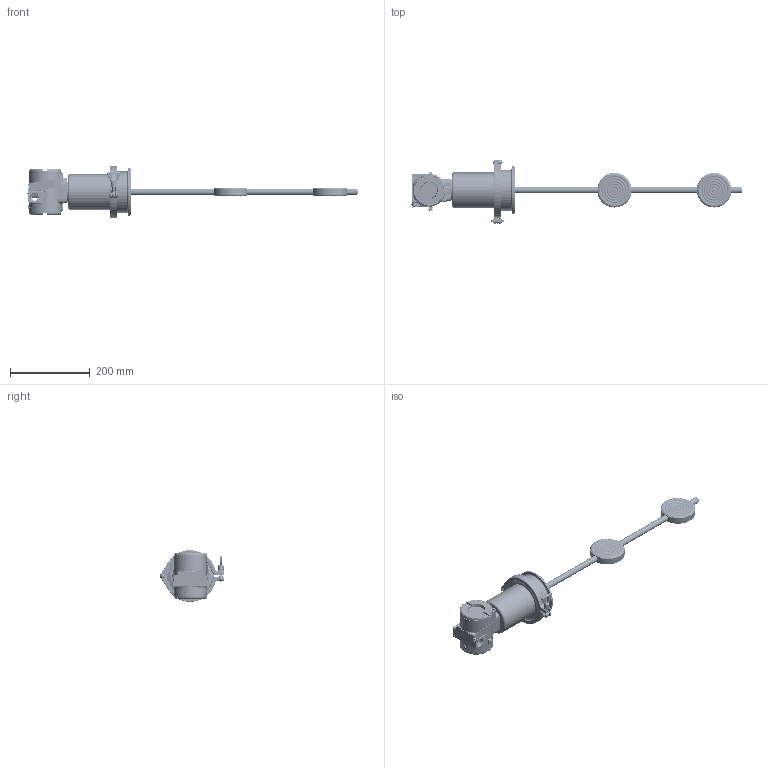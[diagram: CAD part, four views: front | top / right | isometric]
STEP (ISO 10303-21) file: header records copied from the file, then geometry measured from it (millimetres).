
FILE_DESCRIPTION(/* description */ (''),/* implementation_level */ '2;1');
FILE_NAME(/* name */ '\\srvfls01\dados\Area\Desenvolvimento_2\Projects\Sensor\projetos\DT\DETALHAMENTO DE PROJETO EM PROCESSO\DT250 NOVO\DT-250- CORRUGADO 85\3d internet\101-B-8086-00 DIMENSIONAL SANITARIO RETO 01.stp',/* time_stamp */ '2023-01-31T17:48:14-03:00',/* author */ ('inventor03'),/* organization */ (''),/* preprocessor_version */ 'ST-DEVELOPER v17',/* originating_system */ 'Autodesk Inventor 2019',/* authorisation */ '');
FILE_SCHEMA (('AUTOMOTIVE_DESIGN { 1 0 10303 214 3 1 1 }'));
Products named in the file (114): 101-B-8086-00 DIMENSIONAL SANITARIO RETO 01; 101-D-1574-00 Sonda DT30XS reto final s-carcaça 0
1; haste sonda 85 sanitario; 101-B-5907; 101-B-5908-00; 101-B-xxxx; tubo entre sensores 250S; 101-A-9718-01; 101-D-1559-01; 101-D-1560-01; lamina 75-8 corrugado 72; Curvatura do Capilar Maior sanitario 250; Curvatura do Capilar Maior sanitario 250_MIR; 101-b-5914-01conexao sanitaria reta; 101-A-4753-02 proteção do involucro; 101-B-1915-05-original; 101-B-1918-01-TESTE ARREDONDADO; 101-B-2905-04; ponteira lacre celula; oring 2007; sensor DT com 101-d-1551 sem fio temp01; 101-D-1551-00-apos usin final; celula diferencial fx3 300; diafragma central fx3; potinho metaliz -35-4x12-8; potinho 35-4x12-8; capilar 09x05 potinho1; ceramica potinho 12-8; metalizado 25-5; ceramica dos pinos; vidro 27-7x12-8; Diafragma repetidor; 101-A-1655-00_3D Anel repetidor_AISI-316; BAR CODE LABELS; resina aviao; cisne normal; bucha pescoco; ANSI B 27.7M - 3BMI-19; 910 - flat - trava - conector - terra montado na carcaça; GLL910-04 ...
Assembly tree (163 placements, depth 6):
  101-B-8086-00 DIMENSIONAL SANITARIO RETO 01
    101-D-1574-00 Sonda DT30XS reto final s-carcaça 0
1
      haste sonda 85 sanitario
        101-B-5907
        101-B-5908-00
        101-B-xxxx
        tubo entre sensores 250S
        101-A-9718-01  x4
        101-D-1559-01
        101-D-1560-01
        lamina 75-8 corrugado 72  x2
        Curvatura do Capilar Maior sanitario 250
        Curvatura do Capilar Maior sanitario 250_MIR
        101-B-2905-04  x2
        101-b-5914-01conexao sanitaria reta
      101-A-4753-02 proteção do involucro
      101-B-1915-05-original
      101-B-1918-01-TESTE ARREDONDADO
      101-B-2905-04  x2
      ANSI B18.3.1M - M4x0,7 x 8  x8
      ponteira lacre celula  x2
      oring 2007  x4
      sensor DT com 101-d-1551 sem fio temp01
        101-D-1551-00-apos usin final
        celula diferencial fx3 300
          diafragma central fx3
          potinho metaliz -35-4x12-8  x2
            potinho 35-4x12-8
            capilar 09x05 potinho1
            ceramica potinho 12-8
            metalizado 25-5
            ceramica dos pinos
            vidro 27-7x12-8
          Diafragma repetidor  x2
          101-A-1655-00_3D Anel repetidor_AISI-316  x2
          BAR CODE LABELS
          resina aviao  x2
        cisne normal  x2
        bucha pescoco
        ANSI B 27.7M - 3BMI-19
        910 - flat - trava - conector - terra montado na carcaça
          GLL910-04
          flat cable montado na carcaça 400
          Conector flat Cable
          trava flat
          dp460-pe do flat 910
          101-b-0030-anel guia 910
        resina sylgard 567 superior
        101-C0941-10  x2
        oring 2026  x2
        ANSI B18.3.1M - M6x1 x 60  x4
        ANSI B 18.2.4.1 M - M6 x 1  x4
        fios capacitancia 910
        oring 2131
      101-A-4817-01
      101-A-4817-01 Maior
      101-A-9719-00
      fio sensor temperatura DT sanitario reto
      MANTA ISOLAÇÃO
      oring 2131
Bounding box: 833.33 x 160.99 x 129.54 mm (x, y, z)
Volume: 1417911.1 mm3; surface area: 711959 mm2
Topology: 161 solids, 164 shells, 7544 faces, 19288 edges, 12353 vertices
Faces by surface type: plane 3422, cylinder 1632, bspline 965, torus 843, cone 518, sphere 164
Full cylindrical faces by diameter (mm): 0.356 x70, 0.406 x6, 0.5 x6, 0.501 x16, 0.508 x8, 0.8 x4, 0.835 x2, 0.85 x2, 0.9 x8, 1 x20, 1.016 x4, 1.2 x1, 1.422 x6, 1.5 x6, 1.8 x4, 2 x10, 2.05 x4, 2.1 x2, 2.2 x6, 2.38 x24, 2.459 x3, 2.5 x16, 2.6 x4, 2.7 x1, 2.75 x4, 2.8 x2, 2.935 x2, 3 x28, 3.15 x2, 3.2 x4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
Entity records: 252588 total; most frequent: CARTESIAN_POINT 92206, ORIENTED_EDGE 32342, DIRECTION 32268, EDGE_CURVE 16171, AXIS2_PLACEMENT_3D 11964, VERTEX_POINT 10291, LINE 8340, VECTOR 8340
